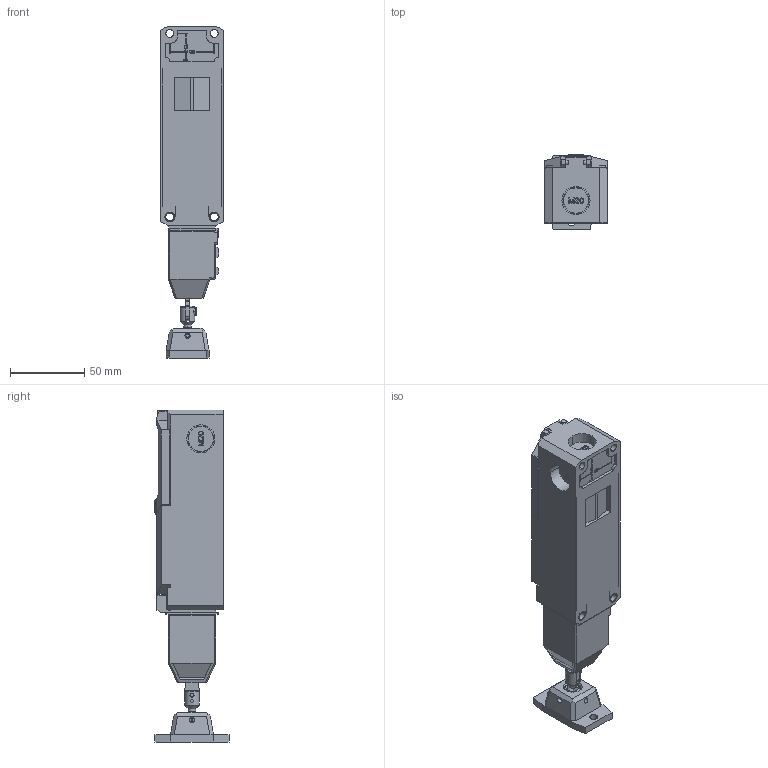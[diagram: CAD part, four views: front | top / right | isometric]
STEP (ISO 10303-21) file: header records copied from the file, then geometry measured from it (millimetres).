
FILE_DESCRIPTION((''),'2;1');
FILE_NAME('2015404_ASM','2014-03-24T',('lwegerer'),(''),'PRO/ENGINEER BY PARAMETRIC TECHNOLOGY CORPORATION, 2011040','PRO/ENGINEER BY PARAMETRIC TECHNOLOGY CORPORATION, 2011040','');
FILE_SCHEMA(('AUTOMOTIVE_DESIGN_CC2 { 1 2 10303 214 -1 1 5 2 }'));
Products named in the file (4): 2015385; 2015386; 2015389; 2015404_ASM
Assembly tree (3 placements, depth 2):
  2015404_ASM
    2015385
    2015386
    2015389
Bounding box: 42.5 x 50 x 224.3 mm (x, y, z)
Volume: 139899.4 mm3; surface area: 105160.8 mm2
Topology: 5 solids, 8 shells, 2490 faces, 6967 edges, 4506 vertices
Faces by surface type: plane 1806, cylinder 484, cone 79, torus 65, sphere 29, bspline 23, extrusion 4
Entity records: 119201 total; most frequent: CARTESIAN_POINT 17885, ORIENTED_EDGE 13844, DIRECTION 12936, PRESENTATION_STYLE_ASSIGNMENT 9110, STYLED_ITEM 6946, CURVE_STYLE 6941, EDGE_CURVE 6922, VECTOR 5414
